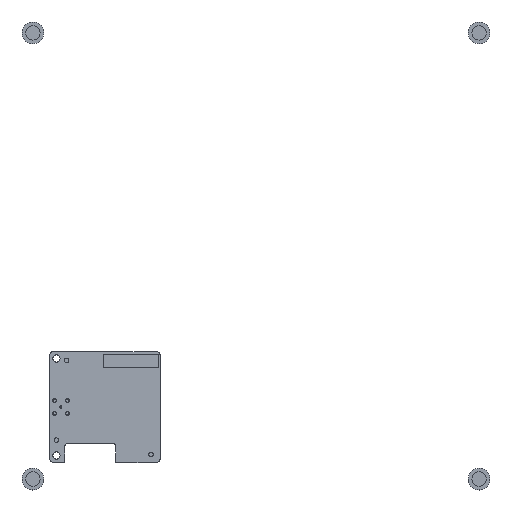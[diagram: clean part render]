
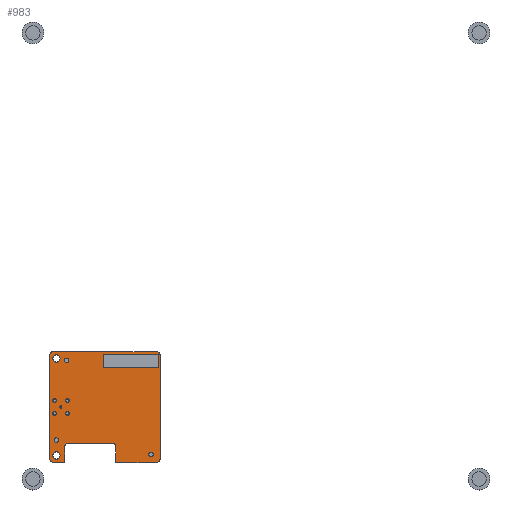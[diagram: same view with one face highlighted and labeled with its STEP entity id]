
A CAD part, top view. The second image highlights one B-rep face of the part: STEP entity #983.
In plain terms, the highlighted planar face has unit normal (0, 0, 1).
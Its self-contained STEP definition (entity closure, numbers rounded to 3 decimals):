
#675=FACE_OUTER_BOUND($,#791,.F.);
#691=FACE_OUTER_BOUND($,#807,.T.);
#695=FACE_OUTER_BOUND($,#811,.T.);
#699=FACE_OUTER_BOUND($,#815,.T.);
#703=FACE_OUTER_BOUND($,#819,.T.);
#707=FACE_OUTER_BOUND($,#823,.T.);
#711=FACE_OUTER_BOUND($,#827,.T.);
#715=FACE_OUTER_BOUND($,#831,.T.);
#791=EDGE_LOOP($,(#1391,#1392,#1393,#1394,#1395,#1396,#1397,#1398,#1399,
#1400,#1401,#1402,#1403,#1404));
#807=EDGE_LOOP($,(#1475,#1476));
#811=EDGE_LOOP($,(#1487,#1488));
#815=EDGE_LOOP($,(#1499,#1500));
#819=EDGE_LOOP($,(#1511,#1512));
#823=EDGE_LOOP($,(#1523,#1524));
#827=EDGE_LOOP($,(#1535,#1536));
#831=EDGE_LOOP($,(#1547,#1548));
#907=PLANE($,#1143);
#983=ADVANCED_FACE($,(#675,#691,#695,#699,#703,#707,#711,#715),#907,.T.);
#1085=CIRCLE($,#1137,0.886);
#1086=CIRCLE($,#1138,0.933);
#1087=CIRCLE($,#1139,0.756);
#1088=CIRCLE($,#1140,0.756);
#1089=CIRCLE($,#1141,0.889);
#1090=CIRCLE($,#1142,0.891);
#1097=CIRCLE($,#1165,0.254);
#1098=CIRCLE($,#1166,0.254);
#1101=CIRCLE($,#1171,0.419);
#1102=CIRCLE($,#1172,0.419);
#1105=CIRCLE($,#1177,0.419);
#1106=CIRCLE($,#1178,0.419);
#1109=CIRCLE($,#1183,0.419);
#1110=CIRCLE($,#1184,0.419);
#1113=CIRCLE($,#1189,0.419);
#1114=CIRCLE($,#1190,0.419);
#1117=CIRCLE($,#1195,0.826);
#1118=CIRCLE($,#1196,0.826);
#1121=CIRCLE($,#1201,0.826);
#1122=CIRCLE($,#1202,0.826);
#1137=AXIS2_PLACEMENT_3D($,#3163,#2809,$);
#1138=AXIS2_PLACEMENT_3D($,#3164,#2809,$);
#1139=AXIS2_PLACEMENT_3D($,#3165,#2809,$);
#1140=AXIS2_PLACEMENT_3D($,#3166,#2809,$);
#1141=AXIS2_PLACEMENT_3D($,#3167,#2809,$);
#1142=AXIS2_PLACEMENT_3D($,#3168,#2809,$);
#1143=AXIS2_PLACEMENT_3D($,#3149,#2809,$);
#1165=AXIS2_PLACEMENT_3D($,#3199,#2809,$);
#1166=AXIS2_PLACEMENT_3D($,#3200,#2809,$);
#1171=AXIS2_PLACEMENT_3D($,#3211,#2809,$);
#1172=AXIS2_PLACEMENT_3D($,#3212,#2809,$);
#1177=AXIS2_PLACEMENT_3D($,#3223,#2809,$);
#1178=AXIS2_PLACEMENT_3D($,#3224,#2809,$);
#1183=AXIS2_PLACEMENT_3D($,#3235,#2809,$);
#1184=AXIS2_PLACEMENT_3D($,#3236,#2809,$);
#1189=AXIS2_PLACEMENT_3D($,#3247,#2809,$);
#1190=AXIS2_PLACEMENT_3D($,#3248,#2809,$);
#1195=AXIS2_PLACEMENT_3D($,#3259,#2809,$);
#1196=AXIS2_PLACEMENT_3D($,#3260,#2809,$);
#1201=AXIS2_PLACEMENT_3D($,#3271,#2809,$);
#1202=AXIS2_PLACEMENT_3D($,#3272,#2809,$);
#1391=ORIENTED_EDGE($,*,*,#1835,.T.);
#1392=ORIENTED_EDGE($,*,*,#1836,.T.);
#1393=ORIENTED_EDGE($,*,*,#1837,.T.);
#1394=ORIENTED_EDGE($,*,*,#1838,.T.);
#1395=ORIENTED_EDGE($,*,*,#1839,.T.);
#1396=ORIENTED_EDGE($,*,*,#1840,.T.);
#1397=ORIENTED_EDGE($,*,*,#1841,.T.);
#1398=ORIENTED_EDGE($,*,*,#1842,.T.);
#1399=ORIENTED_EDGE($,*,*,#1843,.T.);
#1400=ORIENTED_EDGE($,*,*,#1844,.T.);
#1401=ORIENTED_EDGE($,*,*,#1845,.T.);
#1402=ORIENTED_EDGE($,*,*,#1846,.T.);
#1403=ORIENTED_EDGE($,*,*,#1847,.T.);
#1404=ORIENTED_EDGE($,*,*,#1848,.T.);
#1475=ORIENTED_EDGE($,*,*,#1878,.T.);
#1476=ORIENTED_EDGE($,*,*,#1879,.T.);
#1487=ORIENTED_EDGE($,*,*,#1885,.T.);
#1488=ORIENTED_EDGE($,*,*,#1886,.T.);
#1499=ORIENTED_EDGE($,*,*,#1892,.T.);
#1500=ORIENTED_EDGE($,*,*,#1893,.T.);
#1511=ORIENTED_EDGE($,*,*,#1899,.T.);
#1512=ORIENTED_EDGE($,*,*,#1900,.T.);
#1523=ORIENTED_EDGE($,*,*,#1906,.T.);
#1524=ORIENTED_EDGE($,*,*,#1907,.T.);
#1535=ORIENTED_EDGE($,*,*,#1913,.T.);
#1536=ORIENTED_EDGE($,*,*,#1914,.T.);
#1547=ORIENTED_EDGE($,*,*,#1920,.T.);
#1548=ORIENTED_EDGE($,*,*,#1921,.T.);
#1835=EDGE_CURVE($,#2460,#2461,#2269,.T.);
#1836=EDGE_CURVE($,#2461,#2462,#1085,.F.);
#1837=EDGE_CURVE($,#2462,#2463,#2270,.T.);
#1838=EDGE_CURVE($,#2463,#2464,#1086,.F.);
#1839=EDGE_CURVE($,#2464,#2465,#2271,.T.);
#1840=EDGE_CURVE($,#2465,#2466,#2272,.T.);
#1841=EDGE_CURVE($,#2466,#2467,#1087,.T.);
#1842=EDGE_CURVE($,#2467,#2468,#2273,.T.);
#1843=EDGE_CURVE($,#2468,#2469,#1088,.T.);
#1844=EDGE_CURVE($,#2469,#2470,#2274,.T.);
#1845=EDGE_CURVE($,#2470,#2471,#2275,.T.);
#1846=EDGE_CURVE($,#2471,#2472,#1089,.F.);
#1847=EDGE_CURVE($,#2472,#2473,#2276,.T.);
#1848=EDGE_CURVE($,#2473,#2460,#1090,.F.);
#1878=EDGE_CURVE($,#2490,#2491,#1097,.F.);
#1879=EDGE_CURVE($,#2491,#2490,#1098,.F.);
#1885=EDGE_CURVE($,#2496,#2497,#1101,.F.);
#1886=EDGE_CURVE($,#2497,#2496,#1102,.F.);
#1892=EDGE_CURVE($,#2502,#2503,#1105,.F.);
#1893=EDGE_CURVE($,#2503,#2502,#1106,.F.);
#1899=EDGE_CURVE($,#2508,#2509,#1109,.F.);
#1900=EDGE_CURVE($,#2509,#2508,#1110,.F.);
#1906=EDGE_CURVE($,#2514,#2515,#1113,.F.);
#1907=EDGE_CURVE($,#2515,#2514,#1114,.F.);
#1913=EDGE_CURVE($,#2520,#2521,#1117,.F.);
#1914=EDGE_CURVE($,#2521,#2520,#1118,.F.);
#1920=EDGE_CURVE($,#2526,#2527,#1121,.F.);
#1921=EDGE_CURVE($,#2527,#2526,#1122,.F.);
#2078=VECTOR($,#2812,23.597);
#2079=VECTOR($,#2813,23.647);
#2080=VECTOR($,#2814,9.271);
#2081=VECTOR($,#2815,3.627);
#2082=VECTOR($,#2816,10.16);
#2083=VECTOR($,#2817,3.621);
#2084=VECTOR($,#2818,2.609);
#2085=VECTOR($,#2819,23.651);
#2269=LINE($,#3148,#2078);
#2270=LINE($,#3150,#2079);
#2271=LINE($,#3152,#2080);
#2272=LINE($,#3153,#2081);
#2273=LINE($,#3155,#2082);
#2274=LINE($,#3157,#2083);
#2275=LINE($,#3158,#2084);
#2276=LINE($,#3160,#2085);
#2460=VERTEX_POINT($,#3148);
#2461=VERTEX_POINT($,#3149);
#2462=VERTEX_POINT($,#3150);
#2463=VERTEX_POINT($,#3151);
#2464=VERTEX_POINT($,#3152);
#2465=VERTEX_POINT($,#3153);
#2466=VERTEX_POINT($,#3154);
#2467=VERTEX_POINT($,#3155);
#2468=VERTEX_POINT($,#3156);
#2469=VERTEX_POINT($,#3157);
#2470=VERTEX_POINT($,#3158);
#2471=VERTEX_POINT($,#3159);
#2472=VERTEX_POINT($,#3160);
#2473=VERTEX_POINT($,#3161);
#2490=VERTEX_POINT($,#3196);
#2491=VERTEX_POINT($,#3197);
#2496=VERTEX_POINT($,#3208);
#2497=VERTEX_POINT($,#3209);
#2502=VERTEX_POINT($,#3220);
#2503=VERTEX_POINT($,#3221);
#2508=VERTEX_POINT($,#3232);
#2509=VERTEX_POINT($,#3233);
#2514=VERTEX_POINT($,#3244);
#2515=VERTEX_POINT($,#3245);
#2520=VERTEX_POINT($,#3256);
#2521=VERTEX_POINT($,#3257);
#2526=VERTEX_POINT($,#3268);
#2527=VERTEX_POINT($,#3269);
#2809=DIRECTION($,(0.,0.,1.));
#2812=DIRECTION($,(1.,0.,0.));
#2813=DIRECTION($,(0.,-1.,0.));
#2814=DIRECTION($,(-1.,0.001,0.));
#2815=DIRECTION($,(0.,1.,0.));
#2816=DIRECTION($,(-1.,0.,0.));
#2817=DIRECTION($,(0.,-1.,0.));
#2818=DIRECTION($,(-1.,0.001,0.));
#2819=DIRECTION($,(0.,1.,0.));
#3148=CARTESIAN_POINT('',(0.851,25.4,0.));
#3149=CARTESIAN_POINT('',(24.448,25.4,0.));
#3150=CARTESIAN_POINT('',(25.337,24.524,0.));
#3151=CARTESIAN_POINT('',(25.337,0.876,0.));
#3152=CARTESIAN_POINT('',(24.448,-0.013,0.));
#3153=CARTESIAN_POINT('',(15.177,-0.008,0.));
#3154=CARTESIAN_POINT('',(15.177,3.62,0.));
#3155=CARTESIAN_POINT('',(14.415,4.382,0.));
#3156=CARTESIAN_POINT('',(4.255,4.382,0.));
#3157=CARTESIAN_POINT('',(3.493,3.62,0.));
#3158=CARTESIAN_POINT('',(3.493,-0.002,0.));
#3159=CARTESIAN_POINT('',(0.883,0.,0.));
#3160=CARTESIAN_POINT('',(0.,0.879,0.));
#3161=CARTESIAN_POINT('',(0.,24.53,0.));
#3163=CARTESIAN_POINT('',(24.45,24.514,0.));
#3164=CARTESIAN_POINT('',(24.404,0.919,0.));
#3165=CARTESIAN_POINT('',(14.42,3.625,0.));
#3166=CARTESIAN_POINT('',(4.249,3.625,0.));
#3167=CARTESIAN_POINT('',(0.889,0.889,0.));
#3168=CARTESIAN_POINT('',(0.891,24.51,0.));
#3196=CARTESIAN_POINT('',(2.858,12.7,0.));
#3197=CARTESIAN_POINT('',(2.35,12.7,0.));
#3199=CARTESIAN_POINT('',(2.604,12.7,0.));
#3200=CARTESIAN_POINT('',(2.604,12.7,0.));
#3208=CARTESIAN_POINT('',(1.524,14.199,0.));
#3209=CARTESIAN_POINT('',(0.686,14.199,0.));
#3211=CARTESIAN_POINT('',(1.105,14.199,0.));
#3212=CARTESIAN_POINT('',(1.105,14.199,0.));
#3220=CARTESIAN_POINT('',(1.524,11.201,0.));
#3221=CARTESIAN_POINT('',(0.686,11.201,0.));
#3223=CARTESIAN_POINT('',(1.105,11.201,0.));
#3224=CARTESIAN_POINT('',(1.105,11.201,0.));
#3232=CARTESIAN_POINT('',(4.521,14.199,0.));
#3233=CARTESIAN_POINT('',(3.683,14.199,0.));
#3235=CARTESIAN_POINT('',(4.102,14.199,0.));
#3236=CARTESIAN_POINT('',(4.102,14.199,0.));
#3244=CARTESIAN_POINT('',(4.521,11.201,0.));
#3245=CARTESIAN_POINT('',(3.683,11.201,0.));
#3247=CARTESIAN_POINT('',(4.102,11.201,0.));
#3248=CARTESIAN_POINT('',(4.102,11.201,0.));
#3256=CARTESIAN_POINT('',(2.413,1.588,0.));
#3257=CARTESIAN_POINT('',(0.762,1.588,0.));
#3259=CARTESIAN_POINT('',(1.588,1.588,0.));
#3260=CARTESIAN_POINT('',(1.588,1.588,0.));
#3268=CARTESIAN_POINT('',(2.413,23.813,0.));
#3269=CARTESIAN_POINT('',(0.762,23.813,0.));
#3271=CARTESIAN_POINT('',(1.588,23.813,0.));
#3272=CARTESIAN_POINT('',(1.588,23.813,0.));
